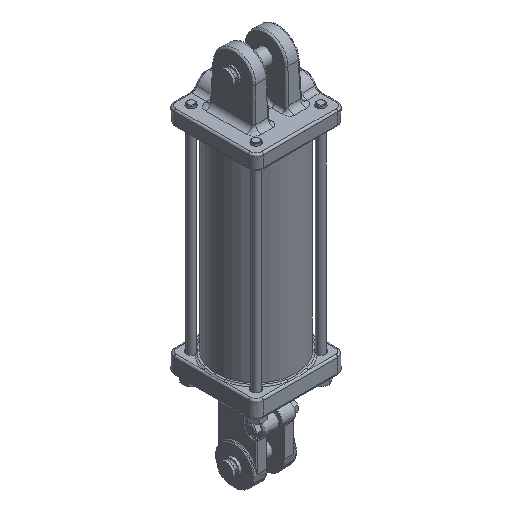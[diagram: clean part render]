
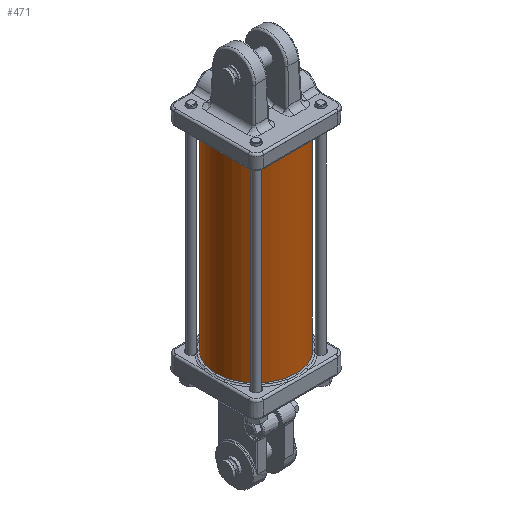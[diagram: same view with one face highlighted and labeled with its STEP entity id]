
A CAD part, isometric view. The second image highlights one B-rep face of the part: STEP entity #471.
In plain terms, the highlighted cylindrical face has radius 66.675 mm (diameter 133.35 mm), a full revolution.
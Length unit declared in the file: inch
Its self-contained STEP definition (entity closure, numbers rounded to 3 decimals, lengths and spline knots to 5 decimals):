
#210=CARTESIAN_POINT('',(-1.029,2.62443,0.0545));
#211=VERTEX_POINT('',#210);
#212=CARTESIAN_POINT('',(-1.029,2.62443,0.0545));
#213=CARTESIAN_POINT('',(-1.03584,2.62443,0.0545));
#214=CARTESIAN_POINT('',(-1.04314,2.62446,0.05313));
#215=CARTESIAN_POINT('',(-1.05657,2.62457,0.04757));
#216=CARTESIAN_POINT('',(-1.0627,2.62465,0.04338));
#217=CARTESIAN_POINT('',(-1.07238,2.62479,0.0337));
#218=CARTESIAN_POINT('',(-1.07657,2.62486,0.02757));
#219=CARTESIAN_POINT('',(-1.08213,2.62497,0.01414));
#220=CARTESIAN_POINT('',(-1.0835,2.625,0.00684));
#221=CARTESIAN_POINT('',(-1.0835,2.625,-0.00684));
#222=CARTESIAN_POINT('',(-1.08213,2.62497,-0.01414));
#223=CARTESIAN_POINT('',(-1.07657,2.62486,-0.02757));
#224=CARTESIAN_POINT('',(-1.07238,2.62479,-0.0337));
#225=CARTESIAN_POINT('',(-1.0627,2.62465,-0.04338));
#226=CARTESIAN_POINT('',(-1.05657,2.62457,-0.04757));
#227=CARTESIAN_POINT('',(-1.04314,2.62446,-0.05313));
#228=CARTESIAN_POINT('',(-1.03584,2.62443,-0.0545));
#229=CARTESIAN_POINT('',(-1.02216,2.62443,-0.0545));
#230=CARTESIAN_POINT('',(-1.01486,2.62446,-0.05313));
#231=CARTESIAN_POINT('',(-1.00143,2.62457,-0.04757));
#232=CARTESIAN_POINT('',(-0.9953,2.62465,-0.04338));
#233=CARTESIAN_POINT('',(-0.98562,2.62479,-0.0337));
#234=CARTESIAN_POINT('',(-0.98143,2.62486,-0.02757));
#235=CARTESIAN_POINT('',(-0.97587,2.62497,-0.01414));
#236=CARTESIAN_POINT('',(-0.9745,2.625,-0.00684));
#237=CARTESIAN_POINT('',(-0.9745,2.625,0.00684));
#238=CARTESIAN_POINT('',(-0.97587,2.62497,0.01414));
#239=CARTESIAN_POINT('',(-0.98143,2.62486,0.02757));
#240=CARTESIAN_POINT('',(-0.98562,2.62479,0.0337));
#241=CARTESIAN_POINT('',(-0.9953,2.62465,0.04338));
#242=CARTESIAN_POINT('',(-1.00143,2.62457,0.04757));
#243=CARTESIAN_POINT('',(-1.01486,2.62446,0.05313));
#244=CARTESIAN_POINT('',(-1.02216,2.62443,0.0545));
#245=CARTESIAN_POINT('',(-1.029,2.62443,0.0545));
#246=B_SPLINE_CURVE_WITH_KNOTS('',3,(#212,#213,#214,#215,#216,#217,#218,#219,#220,#221,#222,#223,#224,#225,#226,#227,#228,#229,#230,#231,#232,#233,#234,#235,#236,#237,#238,#239,#240,#241,#242,#243,#244,#245),.UNSPECIFIED.,.T.,.U.,(4,2,2,2,2,2,2,2,2,2,2,2,2,2,2,2,4),(0.0,0.05215,0.10429,0.15644,0.20859,0.26073,0.31288,0.36502,0.41717,0.46932,0.52146,0.57361,0.62576,0.6779,0.73005,0.7822,0.83434),.UNSPECIFIED.);
#247=EDGE_CURVE('',#211,#211,#246,.T.);
#298=CARTESIAN_POINT('',(-1.409,2.62482,0.031));
#299=VERTEX_POINT('',#298);
#300=CARTESIAN_POINT('',(-1.409,2.62482,0.031));
#301=CARTESIAN_POINT('',(-1.41289,2.62482,0.031));
#302=CARTESIAN_POINT('',(-1.41704,2.62483,0.03022));
#303=CARTESIAN_POINT('',(-1.42468,2.62486,0.02706));
#304=CARTESIAN_POINT('',(-1.42817,2.62489,0.02467));
#305=CARTESIAN_POINT('',(-1.43367,2.62493,0.01917));
#306=CARTESIAN_POINT('',(-1.43606,2.62496,0.01568));
#307=CARTESIAN_POINT('',(-1.43922,2.62499,0.00804));
#308=CARTESIAN_POINT('',(-1.44,2.625,0.00389));
#309=CARTESIAN_POINT('',(-1.44,2.625,-0.00389));
#310=CARTESIAN_POINT('',(-1.43922,2.62499,-0.00804));
#311=CARTESIAN_POINT('',(-1.43606,2.62496,-0.01568));
#312=CARTESIAN_POINT('',(-1.43367,2.62493,-0.01917));
#313=CARTESIAN_POINT('',(-1.42817,2.62489,-0.02467));
#314=CARTESIAN_POINT('',(-1.42468,2.62486,-0.02706));
#315=CARTESIAN_POINT('',(-1.41704,2.62483,-0.03022));
#316=CARTESIAN_POINT('',(-1.41289,2.62482,-0.031));
#317=CARTESIAN_POINT('',(-1.40511,2.62482,-0.031));
#318=CARTESIAN_POINT('',(-1.40096,2.62483,-0.03022));
#319=CARTESIAN_POINT('',(-1.39332,2.62486,-0.02706));
#320=CARTESIAN_POINT('',(-1.38983,2.62489,-0.02467));
#321=CARTESIAN_POINT('',(-1.38433,2.62493,-0.01917));
#322=CARTESIAN_POINT('',(-1.38194,2.62496,-0.01568));
#323=CARTESIAN_POINT('',(-1.37878,2.62499,-0.00804));
#324=CARTESIAN_POINT('',(-1.378,2.625,-0.00389));
#325=CARTESIAN_POINT('',(-1.378,2.625,0.00389));
#326=CARTESIAN_POINT('',(-1.37878,2.62499,0.00804));
#327=CARTESIAN_POINT('',(-1.38194,2.62496,0.01568));
#328=CARTESIAN_POINT('',(-1.38433,2.62493,0.01917));
#329=CARTESIAN_POINT('',(-1.38983,2.62489,0.02467));
#330=CARTESIAN_POINT('',(-1.39332,2.62486,0.02706));
#331=CARTESIAN_POINT('',(-1.40096,2.62483,0.03022));
#332=CARTESIAN_POINT('',(-1.40511,2.62482,0.031));
#333=CARTESIAN_POINT('',(-1.409,2.62482,0.031));
#334=B_SPLINE_CURVE_WITH_KNOTS('',3,(#300,#301,#302,#303,#304,#305,#306,#307,#308,#309,#310,#311,#312,#313,#314,#315,#316,#317,#318,#319,#320,#321,#322,#323,#324,#325,#326,#327,#328,#329,#330,#331,#332,#333),.UNSPECIFIED.,.T.,.U.,(4,2,2,2,2,2,2,2,2,2,2,2,2,2,2,2,4),(0.0,0.02966,0.05932,0.08898,0.11864,0.1483,0.17796,0.20762,0.23728,0.26695,0.29661,0.32627,0.35593,0.38559,0.41525,0.44491,0.47457),.UNSPECIFIED.);
#335=EDGE_CURVE('',#299,#299,#334,.T.);
#345=CARTESIAN_POINT('',(0.,2.625,0.0));
#346=VERTEX_POINT('',#345);
#347=CARTESIAN_POINT('',(0.,0.0,0.0));
#348=DIRECTION('',(1.0,0.0,0.0));
#349=DIRECTION('',(0.0,1.0,0.0));
#350=AXIS2_PLACEMENT_3D('',#347,#348,#349);
#351=CIRCLE('',#350,2.625);
#352=EDGE_CURVE('',#346,#346,#351,.T.);
#439=CARTESIAN_POINT('',(-12.84375,2.625,0.0));
#440=VERTEX_POINT('',#439);
#441=CARTESIAN_POINT('',(-12.84375,0.0,0.0));
#442=DIRECTION('',(1.0,0.0,0.0));
#443=DIRECTION('',(0.0,1.0,0.0));
#444=AXIS2_PLACEMENT_3D('',#441,#442,#443);
#445=CIRCLE('',#444,2.625);
#446=EDGE_CURVE('',#440,#440,#445,.T.);
#454=CARTESIAN_POINT('',(-6.42188,0.0,0.0));
#455=DIRECTION('',(1.0,0.0,0.0));
#456=DIRECTION('',(0.0,1.0,0.0));
#457=AXIS2_PLACEMENT_3D('',#454,#455,#456);
#458=CYLINDRICAL_SURFACE('',#457,2.625);
#459=ORIENTED_EDGE('',*,*,#352,.F.);
#460=EDGE_LOOP('',(#459));
#461=FACE_OUTER_BOUND('',#460,.T.);
#462=ORIENTED_EDGE('',*,*,#247,.T.);
#463=EDGE_LOOP('',(#462));
#464=FACE_BOUND('',#463,.T.);
#465=ORIENTED_EDGE('',*,*,#335,.T.);
#466=EDGE_LOOP('',(#465));
#467=FACE_BOUND('',#466,.T.);
#468=ORIENTED_EDGE('',*,*,#446,.T.);
#469=EDGE_LOOP('',(#468));
#470=FACE_BOUND('',#469,.T.);
#471=ADVANCED_FACE('',(#461,#464,#467,#470),#458,.T.);
